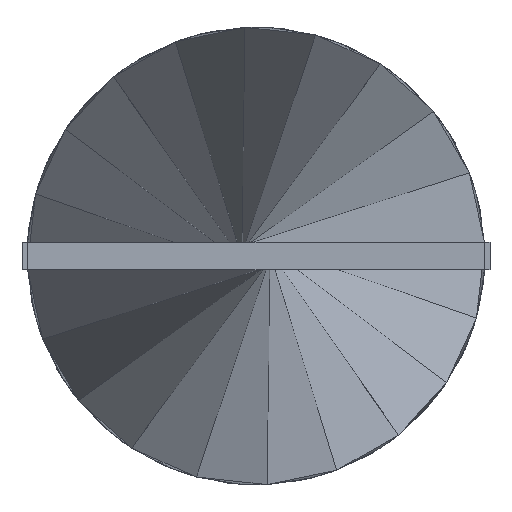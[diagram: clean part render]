
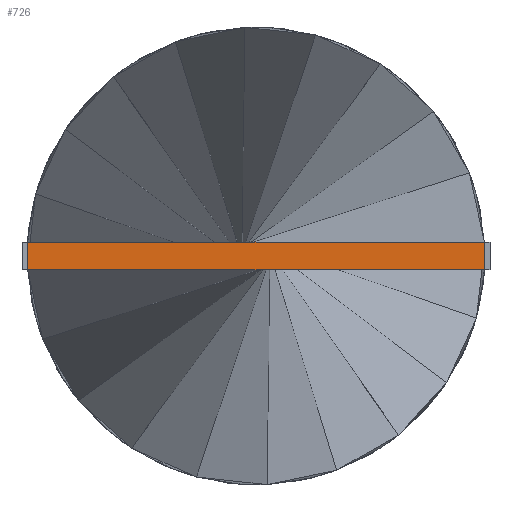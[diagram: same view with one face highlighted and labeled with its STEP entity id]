
A CAD part, front view. The second image highlights one B-rep face of the part: STEP entity #726.
In plain terms, the highlighted planar face has unit normal (0, -1, 0).
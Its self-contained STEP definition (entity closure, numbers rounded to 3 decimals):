
#74 = VERTEX_POINT ( 'NONE', #661 ) ;
#102 = ORIENTED_EDGE ( 'NONE', *, *, #1544, .T. ) ;
#120 = EDGE_CURVE ( 'NONE', #1312, #74, #1094, .T. ) ;
#130 = DIRECTION ( 'NONE',  ( 0., -1., 0. ) ) ;
#226 = VECTOR ( 'NONE', #1283, 1000. ) ;
#260 = ORIENTED_EDGE ( 'NONE', *, *, #120, .T. ) ;
#321 = CARTESIAN_POINT ( 'NONE',  ( -12.4, 0., 0.75 ) ) ;
#330 = DIRECTION ( 'NONE',  ( 1., 0., 0. ) ) ;
#331 = EDGE_CURVE ( 'NONE', #1312, #890, #1098, .T. ) ;
#434 = CARTESIAN_POINT ( 'NONE',  ( -12.4, 0., -0.75 ) ) ;
#454 = CARTESIAN_POINT ( 'NONE',  ( -12.4, 0., -0.75 ) ) ;
#470 = CARTESIAN_POINT ( 'NONE',  ( -12.4, 0., 0.75 ) ) ;
#524 = CARTESIAN_POINT ( 'NONE',  ( -12.4, 0., -0.75 ) ) ;
#649 = PLANE ( 'NONE',  #736 ) ;
#661 = CARTESIAN_POINT ( 'NONE',  ( 12.4, 0., -0.75 ) ) ;
#716 = VECTOR ( 'NONE', #1340, 1000. ) ;
#726 = ADVANCED_FACE ( 'NONE', ( #1272 ), #649, .T. ) ;
#736 = AXIS2_PLACEMENT_3D ( 'NONE', #434, #130, #960 ) ;
#738 = DIRECTION ( 'NONE',  ( 0., 0., 1. ) ) ;
#756 = VECTOR ( 'NONE', #738, 1000. ) ;
#890 = VERTEX_POINT ( 'NONE', #321 ) ;
#960 = DIRECTION ( 'NONE',  ( 0., 0., -1. ) ) ;
#1081 = CARTESIAN_POINT ( 'NONE',  ( 12.4, 0., 0.75 ) ) ;
#1094 = LINE ( 'NONE', #1967, #1250 ) ;
#1098 = LINE ( 'NONE', #524, #716 ) ;
#1250 = VECTOR ( 'NONE', #330, 1000. ) ;
#1272 = FACE_OUTER_BOUND ( 'NONE', #1378, .T. ) ;
#1283 = DIRECTION ( 'NONE',  ( 1., 0., 0. ) ) ;
#1310 = ORIENTED_EDGE ( 'NONE', *, *, #331, .F. ) ;
#1312 = VERTEX_POINT ( 'NONE', #454 ) ;
#1340 = DIRECTION ( 'NONE',  ( 0., 0., 1. ) ) ;
#1378 = EDGE_LOOP ( 'NONE', ( #102, #1644, #1310, #260 ) ) ;
#1544 = EDGE_CURVE ( 'NONE', #74, #1954, #2063, .T. ) ;
#1644 = ORIENTED_EDGE ( 'NONE', *, *, #1744, .F. ) ;
#1729 = CARTESIAN_POINT ( 'NONE',  ( 12.4, 0., -0.75 ) ) ;
#1744 = EDGE_CURVE ( 'NONE', #890, #1954, #1910, .T. ) ;
#1910 = LINE ( 'NONE', #470, #226 ) ;
#1954 = VERTEX_POINT ( 'NONE', #1081 ) ;
#1967 = CARTESIAN_POINT ( 'NONE',  ( -12.4, 0., -0.75 ) ) ;
#2063 = LINE ( 'NONE', #1729, #756 ) ;
